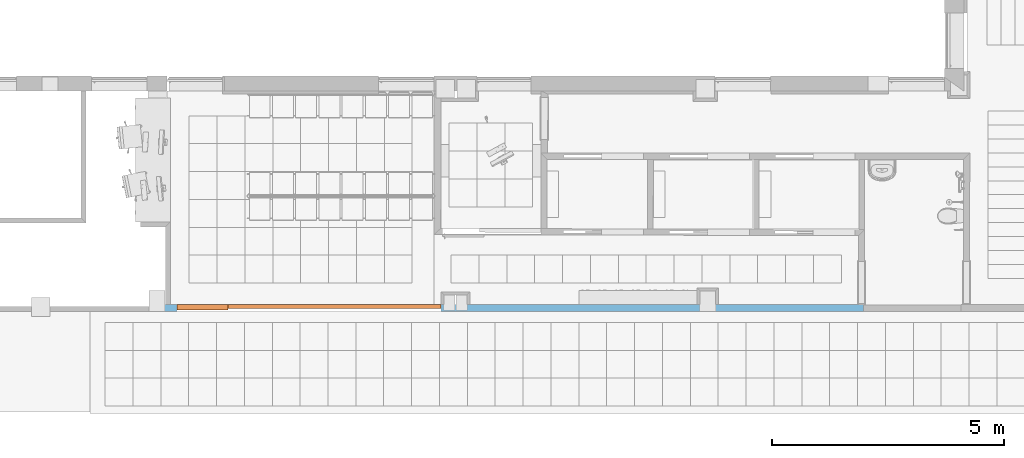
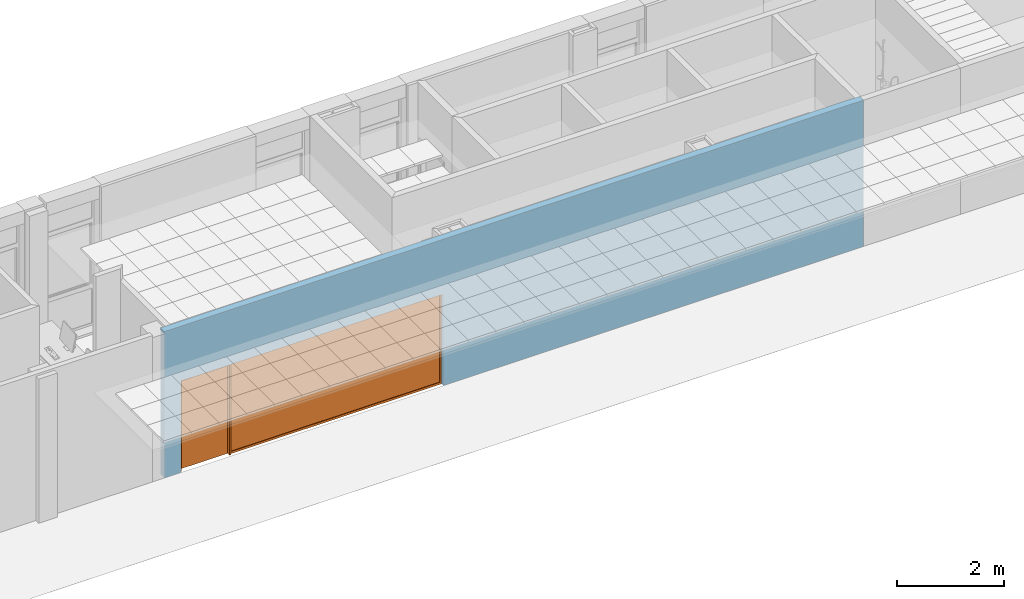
# One storey, part 50 of 68: 2 proxies, 2 openings, plus 1 element that does not belong to this part.
"""IFC2X3 building model written with IfcOpenShell, lengths in millimetres."""

from ifc_helpers import new_model, entity, si_unit, converted_unit, derived_unit, money_unit, direction, frame, origin_with_axes, origin_2d_with_axis, place, context, subcontext, project, spatial, polyline, rectangle, outline, extrude, faceted_brep, material, layer, layer_set, layer_usage, type_object, element, fill, save


model = new_model("IFC2X3")

# Units and contexts
model_context = context("Model", 3, precision=0.01, world=origin_with_axes(), true_north=direction((0.0, 1.0)))
body_context = subcontext(model_context, "Body", "Model", "MODEL_VIEW")
ifc_project = project(units=[si_unit("LENGTHUNIT", "METRE", prefix="MILLI"), si_unit("AREAUNIT", "SQUARE_METRE"), si_unit("VOLUMEUNIT", "CUBIC_METRE"), converted_unit("PLANEANGLEUNIT", "DEGREE", entity("IfcPlaneAngleMeasure", 0.0174532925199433), si_unit("PLANEANGLEUNIT", "RADIAN"), dimensions=[0, 0, 0, 0, 0, 0, 0]), money_unit("USD"), converted_unit("TIMEUNIT", "Year", entity("IfcTimeMeasure", 31557600.0), si_unit("TIMEUNIT", "SECOND"), dimensions=[0, 0, 1, 0, 0, 0, 0]), si_unit("MASSUNIT", "GRAM", prefix="KILO"), si_unit("THERMODYNAMICTEMPERATUREUNIT", "DEGREE_CELSIUS"), si_unit("LUMINOUSINTENSITYUNIT", "LUMEN"), si_unit("ENERGYUNIT", "JOULE", prefix="MEGA"), derived_unit("THERMALCONDUCTANCEUNIT", [(si_unit("POWERUNIT", "WATT"), 1), (si_unit("LENGTHUNIT", "METRE"), -1), (si_unit("THERMODYNAMICTEMPERATUREUNIT", "KELVIN"), -1)]), derived_unit("SPECIFICHEATCAPACITYUNIT", [(si_unit("ENERGYUNIT", "JOULE"), 1), (si_unit("MASSUNIT", "GRAM", prefix="KILO"), -1), (si_unit("THERMODYNAMICTEMPERATUREUNIT", "KELVIN"), -1)]), derived_unit("MASSDENSITYUNIT", [(si_unit("MASSUNIT", "GRAM", prefix="KILO"), 1), (si_unit("VOLUMEUNIT", "CUBIC_METRE"), -1)])], contexts=[model_context])

# Site, building, storey
site_placement = place(None, origin_with_axes())
site = spatial("IfcSite", under=ifc_project, at=site_placement, Name="Sitio", CompositionType="ELEMENT")
building_placement = place(site_placement, origin_with_axes())
building = spatial("IfcBuilding", under=site, at=building_placement, Name="Construcción", CompositionType="ELEMENT")
storey_placement = place(building_placement, origin_with_axes())
storey = spatial("IfcBuildingStorey", under=building, at=storey_placement, Name="PLANTA 1ª", CompositionType="ELEMENT", Elevation=0.0)

# Wall, openings, proxies
ifc_material_1 = material(Name="ARQ_FU093_Panellat_HPL")
ifc_layer_1 = layer(ifc_material_1, 6.0, ventilated="UNKNOWN")
ifc_material_2 = material(Name="ARQ_EN271_Camara_Aire")
ifc_layer_2 = layer(ifc_material_2, 6.0, ventilated="UNKNOWN")
ifc_material_3 = material(Name="Panel de Yeso Laminado")
ifc_layer_3 = layer(ifc_material_3, 13.0, ventilated="UNKNOWN")
ifc_layer_4 = layer(ifc_material_3, 13.0, ventilated="UNKNOWN")
ifc_material_4 = material(Name="ARQ_AI033_Aillament_Llana_De_Roca")
ifc_layer_5 = layer(ifc_material_4, 70.0, ventilated="UNKNOWN")
ifc_layer_6 = layer(ifc_material_3, 13.0, ventilated="UNKNOWN")
ifc_layer_7 = layer(ifc_material_3, 13.0, ventilated="UNKNOWN")
ifc_layer_8 = layer(ifc_material_2, 6.0, ventilated="UNKNOWN")
ifc_layer_9 = layer(ifc_material_1, 6.0, ventilated="UNKNOWN")
ifc_layer_set = layer_set([ifc_layer_1, ifc_layer_2, ifc_layer_3, ifc_layer_4, ifc_layer_5, ifc_layer_6, ifc_layer_7, ifc_layer_8, ifc_layer_9], Name="CR Pladur 70 HPL 2 cares")
ifc_layer_usage = layer_usage(ifc_layer_set, "AXIS2", "POSITIVE", 0.0)
wall_type = type_object("IfcWallType", Name="CR Pladur 70 HPL 2 cares 146", PredefinedType="NOTDEFINED")
wall_placement = place(storey_placement, frame((-18974.60726862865, -17083.97582371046, 0.0), z_axis=(0.0, 0.0, 1.0), x_axis=(1.0, 0.0, 0.0)))
wall = element("IfcWallStandardCase", 1, at=wall_placement, inside=storey, type_object=wall_type, material=ifc_layer_usage, Name="MS-211", context=body_context, shape_type="SweptSolid", body=[
    extrude(outline(polyline([(0.0, 0.0), (15132.19856636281, 0.0), (15132.19856636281, 146.0000000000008), (0.0, 146.0000000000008), (0.0, 0.0)])), origin_with_axes(), (0.0, 0.0, 1.0), 3350.0),
])
opening_1_placement = place(wall_placement, frame((3747.282570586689, 0.0, 0.0), z_axis=(0.0, 0.0, 1.0), x_axis=(1.0, 0.0, 0.0)))
opening_1 = element("IfcOpeningElement", 2, at=opening_1_placement, cuts=wall, Name="M-01", context=body_context, shape_type="SweptSolid", body=[
    extrude(rectangle(XDim=4581.456224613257, YDim=2100.0, at=origin_2d_with_axis()), frame((0.0, -146.0000000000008, 1050.0), z_axis=(0.0, -1.0, 0.0), x_axis=(1.0, 0.0, 0.0)), (0.0, 0.0, -1.0), 438.0000000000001),
])
opening_2_placement = place(wall_placement, frame((906.5544582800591, 0.0, 0.0), z_axis=(0.0, 0.0, 1.0), x_axis=(1.0, 0.0, 0.0)))
opening_2 = element("IfcOpeningElement", 3, at=opening_2_placement, cuts=wall, Name="PM-1", context=body_context, shape_type="SweptSolid", body=[
    extrude(rectangle(XDim=1100.000000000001, YDim=2100.0, at=origin_2d_with_axis()), frame((0.0, -146.0000000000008, 1050.0), z_axis=(0.0, -1.0, 0.0), x_axis=(-1.0, 0.0, 0.0)), (0.0, 0.0, -1.0), 438.0000000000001),
])
building_element_proxy_type_1 = type_object("IfcBuildingElementProxyType", Name="Ventana Escaparate 27", PredefinedType="NOTDEFINED")
proxy_1_placement = place(opening_1_placement, frame((2290.72811230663, 0.0, 0.0), z_axis=(0.0, 0.0, 1.0), x_axis=(-1.0, 0.0, 0.0)))
proxy_1 = element("IfcBuildingElementProxy", 4, at=proxy_1_placement, inside=storey, type_object=building_element_proxy_type_1, Name="M-01", context=body_context, shape_type="Brep", body=[
    faceted_brep([(4581.456224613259, -65.99999999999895, 2060.0), (4581.456224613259, -146.0000000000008, 2060.0), (4581.456224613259, -146.0000000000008, 49.99999999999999), (4581.456224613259, -65.99999999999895, 49.99999999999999), (4541.45622461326, -65.99999999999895, 2060.0), (4541.45622461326, -146.0000000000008, 2060.0), (4541.45622461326, -146.0000000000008, 49.99999999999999), (4541.45622461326, -65.99999999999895, 49.99999999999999)], [[[0, 1, 2, 3]], [[4, 5, 1, 0]], [[1, 5, 6, 2]], [[3, 2, 6, 7]], [[0, 3, 7, 4]], [[7, 6, 5, 4]]]),
    faceted_brep([(0.0, -65.99999999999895, 49.99999999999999), (0.0, -145.9999999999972, 49.99999999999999), (0.0, -145.9999999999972, 2060.0), (0.0, -65.99999999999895, 2060.0), (39.99999999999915, -65.99999999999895, 49.99999999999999), (39.99999999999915, -145.9999999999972, 49.99999999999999), (39.99999999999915, -145.9999999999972, 2060.0), (39.99999999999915, -65.99999999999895, 2060.0)], [[[0, 1, 2, 3]], [[4, 5, 1, 0]], [[1, 5, 6, 2]], [[3, 2, 6, 7]], [[0, 3, 7, 4]], [[7, 6, 5, 4]]]),
    faceted_brep([(0.0, -65.99999999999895, 2100.0), (0.0, -145.9999999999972, 2100.0), (4581.456224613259, -146.0000000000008, 2100.0), (4581.456224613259, -65.99999999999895, 2100.0), (0.0, -65.99999999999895, 2060.0), (0.0, -145.9999999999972, 2060.0), (39.99999999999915, -145.9999999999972, 2060.0), (4541.45622461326, -146.0000000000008, 2060.0), (4581.456224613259, -146.0000000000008, 2060.0), (4581.456224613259, -65.99999999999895, 2060.0), (4541.45622461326, -65.99999999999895, 2060.0), (39.99999999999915, -65.99999999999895, 2060.0)], [[[0, 1, 2, 3]], [[4, 5, 1, 0]], [[1, 5, 6, 7, 8, 2]], [[3, 2, 8, 9]], [[0, 3, 9, 10, 11, 4]], [[11, 6, 5, 4]], [[10, 7, 6, 11]], [[9, 8, 7, 10]]]),
    faceted_brep([(0.0, -65.99999999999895, 49.99999999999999), (0.0, -145.9999999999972, 49.99999999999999), (39.99999999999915, -145.9999999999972, 49.99999999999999), (39.99999999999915, -65.99999999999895, 49.99999999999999), (0.0, -65.99999999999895, 0.0), (0.0, -145.9999999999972, 0.0), (4581.456224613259, -146.0000000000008, 0.0), (4581.456224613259, -146.0000000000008, 49.99999999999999), (4541.45622461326, -146.0000000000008, 49.99999999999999), (4541.45622461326, -65.99999999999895, 49.99999999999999), (4581.456224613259, -65.99999999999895, 49.99999999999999), (4581.456224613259, -65.99999999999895, 0.0)], [[[0, 1, 2, 3]], [[4, 5, 1, 0]], [[1, 5, 6, 7, 8, 2]], [[3, 2, 8, 9]], [[0, 3, 9, 10, 11, 4]], [[11, 6, 5, 4]], [[10, 7, 6, 11]], [[9, 8, 7, 10]]]),
    faceted_brep([(4541.45622461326, -76.00000000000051, 49.99999999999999), (4541.45622461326, -85.99999999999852, 49.99999999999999), (39.99999999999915, -85.99999999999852, 49.99999999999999), (39.99999999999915, -75.99999999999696, 49.99999999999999), (4541.45622461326, -76.00000000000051, 2060.0), (4541.45622461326, -85.99999999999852, 2060.0), (39.99999999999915, -85.99999999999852, 2060.0), (39.99999999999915, -76.00000000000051, 2060.0)], [[[0, 1, 2, 3]], [[4, 5, 1, 0]], [[1, 5, 6, 2]], [[3, 2, 6, 7]], [[0, 3, 7, 4]], [[7, 6, 5, 4]]]),
])
fill(opening_1, proxy_1)
building_element_proxy_type_2 = type_object("IfcBuildingElementProxyType", Name="Puerta Entrada 27", PredefinedType="NOTDEFINED")
proxy_2_placement = place(opening_2_placement, frame((-550.0000000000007, 0.0, 0.0), z_axis=(0.0, 0.0, 1.0), x_axis=(1.0, 0.0, 0.0)))
proxy_2 = element("IfcBuildingElementProxy", 5, at=proxy_2_placement, inside=storey, type_object=building_element_proxy_type_2, Name="PM-1", context=body_context, shape_type="Brep", body=[
    faceted_brep([(1068.000000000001, 106.0000000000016, 0.0), (1068.000000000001, 31.00000000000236, 0.0), (1068.000000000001, 31.00000000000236, 2068.0), (1068.000000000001, 106.0000000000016, 2068.0), (1080.000000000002, 106.0000000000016, 0.0), (1080.000000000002, 146.0000000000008, 0.0), (1100.000000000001, 146.0000000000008, 0.0), (1100.000000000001, 31.00000000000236, 0.0), (1100.000000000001, 31.00000000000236, 2068.0), (1080.000000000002, 106.0000000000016, 2068.0), (1100.000000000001, 146.0000000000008, 2068.0), (1080.000000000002, 146.0000000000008, 2068.0)], [[[0, 1, 2, 3]], [[4, 5, 6, 7, 1, 0]], [[1, 7, 8, 2]], [[9, 3, 2, 8, 10, 11]], [[9, 4, 0, 3]], [[11, 5, 4, 9]], [[11, 10, 6, 5]], [[6, 10, 8, 7]]]),
    faceted_brep([(19.99999999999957, 106.0000000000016, 2068.0), (19.99999999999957, 146.0000000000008, 2068.0), (0.0, 146.0000000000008, 2068.0), (0.0, 31.00000000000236, 2068.0), (32.00000000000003, 31.00000000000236, 2068.0), (32.00000000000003, 106.0000000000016, 2068.0), (19.99999999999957, 106.0000000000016, 0.0), (19.99999999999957, 146.0000000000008, 0.0), (0.0, 146.0000000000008, 0.0), (0.0, 31.00000000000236, 0.0), (32.00000000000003, 31.00000000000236, 0.0), (32.00000000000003, 106.0000000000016, 0.0)], [[[0, 1, 2, 3, 4, 5]], [[0, 6, 7, 1]], [[7, 8, 2, 1]], [[2, 8, 9, 3]], [[3, 9, 10, 4]], [[5, 4, 10, 11]], [[5, 11, 6, 0]], [[6, 11, 10, 9, 8, 7]]]),
    faceted_brep([(1080.000000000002, 146.0000000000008, 2080.0), (19.99999999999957, 146.0000000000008, 2080.0), (19.99999999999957, 146.0000000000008, 2068.0), (0.0, 146.0000000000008, 2068.0), (0.0, 146.0000000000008, 2100.0), (1100.000000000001, 146.0000000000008, 2100.0), (1100.000000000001, 146.0000000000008, 2068.0), (1080.000000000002, 146.0000000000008, 2068.0), (1080.000000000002, 106.0000000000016, 2080.0), (19.99999999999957, 106.0000000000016, 2080.0), (19.99999999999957, 106.0000000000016, 2068.0), (32.00000000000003, 106.0000000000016, 2068.0), (32.00000000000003, 31.00000000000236, 2068.0), (0.0, 31.00000000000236, 2068.0), (0.0, 31.00000000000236, 2100.0), (1100.000000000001, 31.00000000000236, 2100.0), (1100.000000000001, 31.00000000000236, 2068.0), (1080.000000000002, 106.0000000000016, 2068.0), (1068.000000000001, 31.00000000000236, 2068.0), (1068.000000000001, 106.0000000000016, 2068.0)], [[[0, 1, 2, 3, 4, 5, 6, 7]], [[0, 8, 9, 1]], [[1, 9, 10, 2]], [[10, 11, 12, 13, 3, 2]], [[4, 3, 13, 14]], [[5, 4, 14, 15]], [[6, 5, 15, 16]], [[17, 7, 6, 16, 18, 19]], [[7, 17, 8, 0]], [[10, 9, 8, 17, 19, 11]], [[19, 18, 12, 11]], [[12, 18, 16, 15, 14, 13]]]),
    faceted_brep([(19.99999999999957, 146.0000000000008, 0.0), (1080.000000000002, 146.0000000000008, 0.0), (1080.000000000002, 106.0000000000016, 0.0), (19.99999999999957, 106.0000000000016, 0.0), (19.99999999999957, 146.0000000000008, 2080.0), (1080.000000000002, 146.0000000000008, 2080.0), (1080.000000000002, 106.0000000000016, 2080.0), (19.99999999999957, 106.0000000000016, 2080.0)], [[[0, 1, 2, 3]], [[0, 4, 5, 1]], [[1, 5, 6, 2]], [[3, 2, 6, 7]], [[4, 0, 3, 7]], [[5, 4, 7, 6]]]),
])
fill(opening_2, proxy_2)

save(model, "model.ifc")
